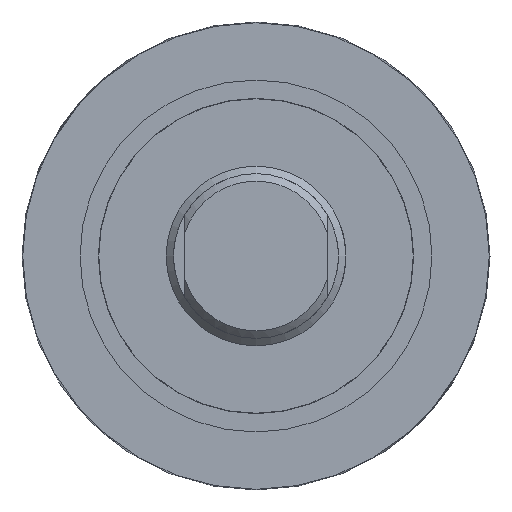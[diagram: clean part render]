
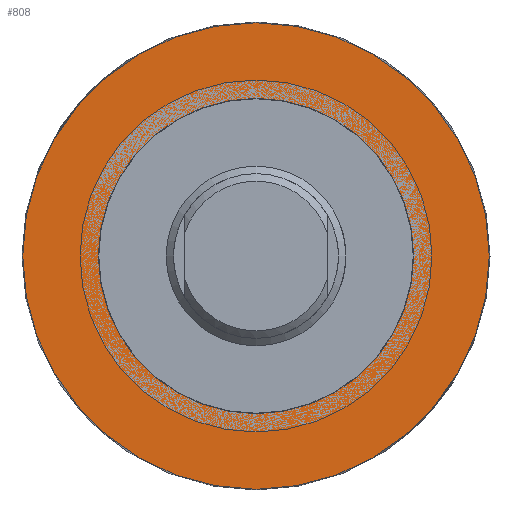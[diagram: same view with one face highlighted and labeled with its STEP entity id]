
A CAD part, left-side view. The second image highlights one B-rep face of the part: STEP entity #808.
In plain terms, the highlighted planar face has unit normal (-1, 0, 0).
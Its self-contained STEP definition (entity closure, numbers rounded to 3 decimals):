
#148=FACE_OUTER_BOUND('',#201,.T.);
#201=EDGE_LOOP('',(#600));
#261=CIRCLE('',#913,31.15);
#341=VERTEX_POINT('',#1411);
#436=EDGE_CURVE('',#341,#341,#261,.T.);
#600=ORIENTED_EDGE('',*,*,#436,.T.);
#714=PLANE('',#912);
#808=ADVANCED_FACE('',(#148),#714,.T.);
#912=AXIS2_PLACEMENT_3D('',#1410,#1101,#1102);
#913=AXIS2_PLACEMENT_3D('',#1412,#1103,#1104);
#1101=DIRECTION('center_axis',(-1.,0.,0.));
#1102=DIRECTION('ref_axis',(0.,0.,-1.));
#1103=DIRECTION('center_axis',(-1.,0.,0.));
#1104=DIRECTION('ref_axis',(0.,0.,1.));
#1410=CARTESIAN_POINT('Origin',(56.95,-27.325,0.));
#1411=CARTESIAN_POINT('',(56.95,0.,-31.15));
#1412=CARTESIAN_POINT('Origin',(56.95,0.,0.));
